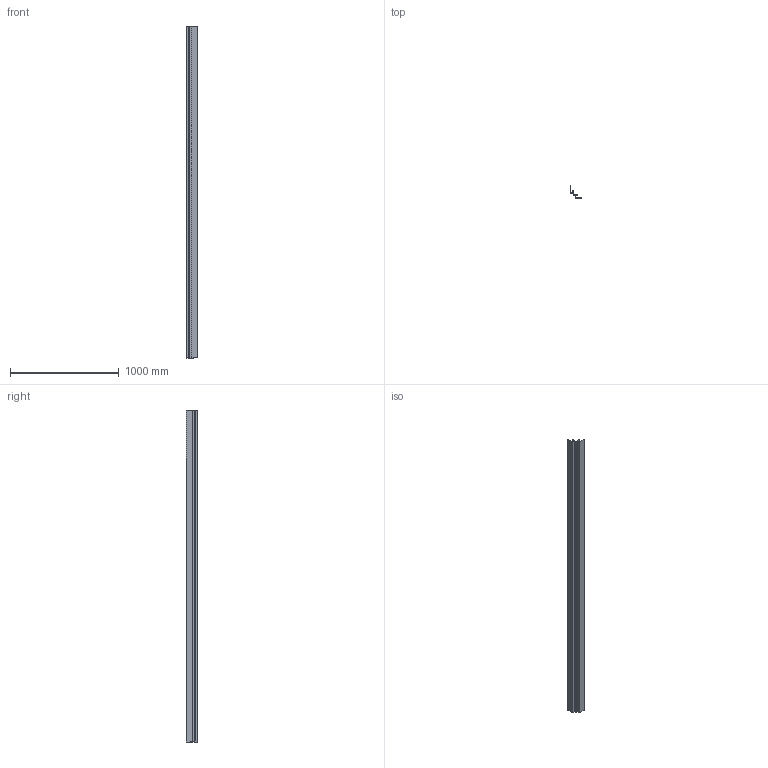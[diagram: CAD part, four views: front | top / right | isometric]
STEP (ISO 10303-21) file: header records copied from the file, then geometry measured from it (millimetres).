
FILE_DESCRIPTION (( 'STEP AP203' ), '1' );
FILE_NAME ('M22G.STEP', '2018-06-15T17:15:55', ( 'Michael Moliner' ), ( '' ), 'SwSTEP 2.0', 'SolidWorks 2018', '' );
FILE_SCHEMA (( 'CONFIG_CONTROL_DESIGN' ));
Length unit declared in the file: inch
Products named in the file (2): M22G
Bounding box: 108.9 x 108.9 x 3048 mm (x, y, z)
Volume: 468635.1 mm3; surface area: 1848424.5 mm2
Topology: 1 solids, 1 shells, 30 faces, 84 edges, 56 vertices
Faces by surface type: plane 20, cylinder 10
Entity records: 1125 total; most frequent: CARTESIAN_POINT 172, ORIENTED_EDGE 168, DIRECTION 168, EDGE_CURVE 84, LINE 64, VECTOR 64, VERTEX_POINT 56, AXIS2_PLACEMENT_3D 52
